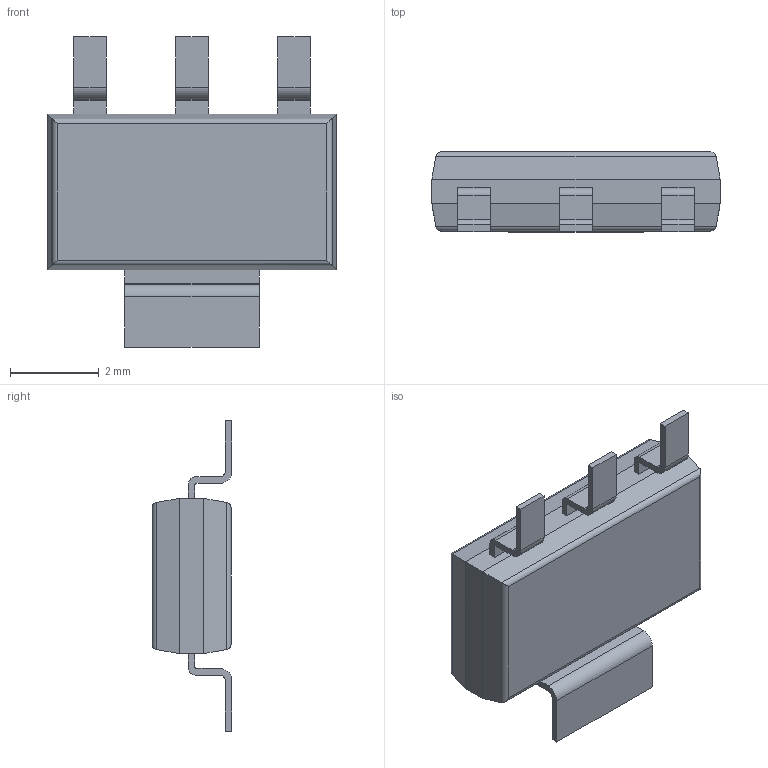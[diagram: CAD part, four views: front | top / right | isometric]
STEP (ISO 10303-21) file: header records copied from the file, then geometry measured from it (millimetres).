
FILE_DESCRIPTION (( 'STEP AP214' ), '1' );
FILE_NAME ( 'SOT223-4P230_700X180L110X74.STEP', '2021-10-06T06:49:12', ( '' ), ( '' ), '', '©2017 PCB Libraries, Inc.', '' );
FILE_SCHEMA (( 'AUTOMOTIVE_DESIGN' ));
Length unit declared in the file: millimetre
Products named in the file (1): SOT223-4P230_700X180L110X74
Bounding box: 6.5 x 1.8 x 7 mm (x, y, z)
Volume: 41 mm3; surface area: 105.9 mm2
Topology: 5 solids, 5 shells, 81 faces, 194 edges, 124 vertices
Faces by surface type: plane 55, cylinder 26
Entity records: 2469 total; most frequent: CARTESIAN_POINT 424, ORIENTED_EDGE 388, DIRECTION 386, EDGE_CURVE 194, VECTOR 150, LINE 150, VERTEX_POINT 124, AXIS2_PLACEMENT_3D 118
